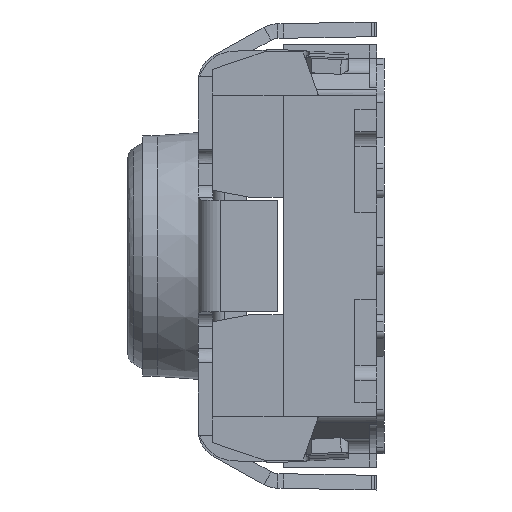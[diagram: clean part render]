
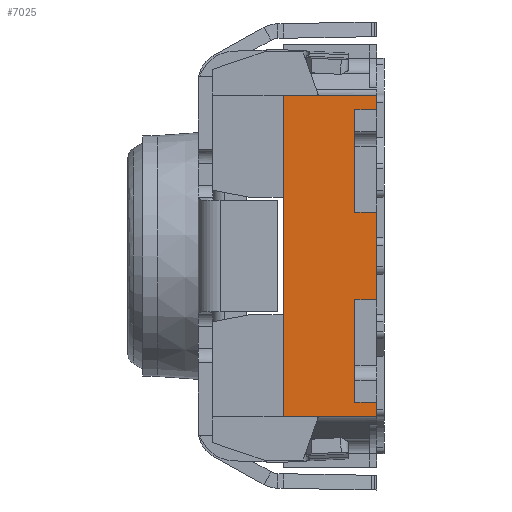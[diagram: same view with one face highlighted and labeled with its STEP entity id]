
A CAD part, left-side view. The second image highlights one B-rep face of the part: STEP entity #7025.
In plain terms, the highlighted planar face has unit normal (-1, 0, 0).
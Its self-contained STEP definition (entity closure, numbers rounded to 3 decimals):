
#104 = CARTESIAN_POINT ( 'NONE',  ( -1.75, 0.64, 0.4 ) ) ;
#188 = DIRECTION ( 'NONE',  ( 0., 0., -1. ) ) ;
#320 = CARTESIAN_POINT ( 'NONE',  ( -1.75, 0., -1.445 ) ) ;
#342 = LINE ( 'NONE', #320, #5963 ) ;
#400 = EDGE_CURVE ( 'NONE', #13100, #13331, #9285, .T. ) ;
#727 = LINE ( 'NONE', #5709, #11260 ) ;
#910 = LINE ( 'NONE', #4287, #6488 ) ;
#1172 = VERTEX_POINT ( 'NONE', #7835 ) ;
#1658 = CARTESIAN_POINT ( 'NONE',  ( -1.75, 0.64, -0.3 ) ) ;
#1951 = VECTOR ( 'NONE', #3229, 1000. ) ;
#2148 = LINE ( 'NONE', #26224, #7086 ) ;
#2409 = PLANE ( 'NONE',  #2807 ) ;
#2414 = LINE ( 'NONE', #14911, #8003 ) ;
#2771 = VERTEX_POINT ( 'NONE', #12848 ) ;
#2807 = AXIS2_PLACEMENT_3D ( 'NONE', #10863, #25531, #12964 ) ;
#2899 = VERTEX_POINT ( 'NONE', #8416 ) ;
#3229 = DIRECTION ( 'NONE',  ( 0., -1., 0. ) ) ;
#3239 = VECTOR ( 'NONE', #9915, 1000. ) ;
#3407 = CARTESIAN_POINT ( 'NONE',  ( -1.75, 0.64, -0.4 ) ) ;
#3585 = LINE ( 'NONE', #26619, #20351 ) ;
#3626 = VERTEX_POINT ( 'NONE', #7734 ) ;
#4287 = CARTESIAN_POINT ( 'NONE',  ( -1.75, 0.15, 0. ) ) ;
#5030 = EDGE_CURVE ( 'NONE', #26349, #24691, #727, .T. ) ;
#5426 = VERTEX_POINT ( 'NONE', #8440 ) ;
#5627 = EDGE_CURVE ( 'NONE', #26600, #3626, #20747, .T. ) ;
#5709 = CARTESIAN_POINT ( 'NONE',  ( -1.75, 0.64, -1.1 ) ) ;
#5963 = VECTOR ( 'NONE', #6766, 1000. ) ;
#6221 = EDGE_CURVE ( 'NONE', #13100, #20587, #3585, .T. ) ;
#6488 = VECTOR ( 'NONE', #16884, 1000. ) ;
#6766 = DIRECTION ( 'NONE',  ( 0., 0., -1. ) ) ;
#7025 = ADVANCED_FACE ( 'NONE', ( #9060 ), #2409, .F. ) ;
#7046 = CARTESIAN_POINT ( 'NONE',  ( -1.75, 0.64, 0. ) ) ;
#7076 = LINE ( 'NONE', #7046, #23179 ) ;
#7086 = VECTOR ( 'NONE', #15803, 1000. ) ;
#7615 = DIRECTION ( 'NONE',  ( 0., 0., 1. ) ) ;
#7702 = EDGE_CURVE ( 'NONE', #2899, #10721, #2414, .T. ) ;
#7734 = CARTESIAN_POINT ( 'NONE',  ( -1.75, 0., 1. ) ) ;
#7835 = CARTESIAN_POINT ( 'NONE',  ( -1.75, 0., -1. ) ) ;
#8003 = VECTOR ( 'NONE', #188, 1000. ) ;
#8086 = CARTESIAN_POINT ( 'NONE',  ( -1.75, 0.64, 1. ) ) ;
#8168 = LINE ( 'NONE', #17949, #1951 ) ;
#8351 = DIRECTION ( 'NONE',  ( 0., -1., 0. ) ) ;
#8377 = EDGE_LOOP ( 'NONE', ( #13766, #8515, #14626, #24955, #12652, #10331, #21939, #17019, #10124, #27283, #8452, #21562, #9742, #16435 ) ) ;
#8416 = CARTESIAN_POINT ( 'NONE',  ( -1.75, 0.15, 1. ) ) ;
#8440 = CARTESIAN_POINT ( 'NONE',  ( -1.75, 0., -0.3 ) ) ;
#8452 = ORIENTED_EDGE ( 'NONE', *, *, #5030, .F. ) ;
#8515 = ORIENTED_EDGE ( 'NONE', *, *, #26721, .F. ) ;
#8968 = EDGE_CURVE ( 'NONE', #5426, #2771, #24940, .T. ) ;
#9060 = FACE_OUTER_BOUND ( 'NONE', #8377, .T. ) ;
#9123 = DIRECTION ( 'NONE',  ( 0., 0., 1. ) ) ;
#9124 = EDGE_CURVE ( 'NONE', #2771, #18233, #910, .T. ) ;
#9285 = LINE ( 'NONE', #10786, #14887 ) ;
#9325 = VERTEX_POINT ( 'NONE', #13289 ) ;
#9742 = ORIENTED_EDGE ( 'NONE', *, *, #17764, .F. ) ;
#9915 = DIRECTION ( 'NONE',  ( 0., 1., 0. ) ) ;
#10124 = ORIENTED_EDGE ( 'NONE', *, *, #6221, .T. ) ;
#10331 = ORIENTED_EDGE ( 'NONE', *, *, #5627, .F. ) ;
#10661 = CARTESIAN_POINT ( 'NONE',  ( -1.75, 0., -1.445 ) ) ;
#10721 = VERTEX_POINT ( 'NONE', #17523 ) ;
#10786 = CARTESIAN_POINT ( 'NONE',  ( -1.75, 0.64, 0. ) ) ;
#10863 = CARTESIAN_POINT ( 'NONE',  ( -1.75, 0.64, 0. ) ) ;
#10932 = VECTOR ( 'NONE', #12770, 1000. ) ;
#11260 = VECTOR ( 'NONE', #20400, 1000. ) ;
#12582 = CARTESIAN_POINT ( 'NONE',  ( -1.75, 0., 1.1 ) ) ;
#12652 = ORIENTED_EDGE ( 'NONE', *, *, #25134, .F. ) ;
#12770 = DIRECTION ( 'NONE',  ( 0., 0., -1. ) ) ;
#12800 = EDGE_CURVE ( 'NONE', #13331, #26600, #2148, .T. ) ;
#12848 = CARTESIAN_POINT ( 'NONE',  ( -1.75, 0.15, -0.3 ) ) ;
#12964 = DIRECTION ( 'NONE',  ( 0., 0., -1. ) ) ;
#13071 = VECTOR ( 'NONE', #20681, 1000. ) ;
#13100 = VERTEX_POINT ( 'NONE', #104 ) ;
#13289 = CARTESIAN_POINT ( 'NONE',  ( -1.75, 0., 0.3 ) ) ;
#13331 = VERTEX_POINT ( 'NONE', #15586 ) ;
#13532 = CARTESIAN_POINT ( 'NONE',  ( -1.75, 0., -1.1 ) ) ;
#13721 = LINE ( 'NONE', #8086, #13071 ) ;
#13766 = ORIENTED_EDGE ( 'NONE', *, *, #8968, .F. ) ;
#14233 = LINE ( 'NONE', #23094, #17536 ) ;
#14626 = ORIENTED_EDGE ( 'NONE', *, *, #24961, .F. ) ;
#14887 = VECTOR ( 'NONE', #7615, 1000. ) ;
#14905 = CARTESIAN_POINT ( 'NONE',  ( -1.75, 0.64, -1.1 ) ) ;
#14911 = CARTESIAN_POINT ( 'NONE',  ( -1.75, 0.15, 0. ) ) ;
#15586 = CARTESIAN_POINT ( 'NONE',  ( -1.75, 0.64, 1.1 ) ) ;
#15803 = DIRECTION ( 'NONE',  ( 0., -1., 0. ) ) ;
#16435 = ORIENTED_EDGE ( 'NONE', *, *, #9124, .F. ) ;
#16884 = DIRECTION ( 'NONE',  ( 0., 0., -1. ) ) ;
#17019 = ORIENTED_EDGE ( 'NONE', *, *, #400, .F. ) ;
#17523 = CARTESIAN_POINT ( 'NONE',  ( -1.75, 0.15, 0.3 ) ) ;
#17536 = VECTOR ( 'NONE', #8351, 1000. ) ;
#17764 = EDGE_CURVE ( 'NONE', #18233, #1172, #14233, .T. ) ;
#17823 = EDGE_CURVE ( 'NONE', #1172, #26349, #22133, .T. ) ;
#17949 = CARTESIAN_POINT ( 'NONE',  ( -1.75, 0.64, 0.3 ) ) ;
#18233 = VERTEX_POINT ( 'NONE', #20762 ) ;
#20075 = VECTOR ( 'NONE', #24144, 1000. ) ;
#20351 = VECTOR ( 'NONE', #20385, 1000. ) ;
#20385 = DIRECTION ( 'NONE',  ( 0., 0., -1. ) ) ;
#20400 = DIRECTION ( 'NONE',  ( 0., 1., 0. ) ) ;
#20587 = VERTEX_POINT ( 'NONE', #3407 ) ;
#20681 = DIRECTION ( 'NONE',  ( 0., 1., 0. ) ) ;
#20747 = LINE ( 'NONE', #22042, #20075 ) ;
#20762 = CARTESIAN_POINT ( 'NONE',  ( -1.75, 0.15, -1. ) ) ;
#21562 = ORIENTED_EDGE ( 'NONE', *, *, #17823, .F. ) ;
#21939 = ORIENTED_EDGE ( 'NONE', *, *, #12800, .F. ) ;
#22042 = CARTESIAN_POINT ( 'NONE',  ( -1.75, 0., -1.445 ) ) ;
#22133 = LINE ( 'NONE', #10661, #10932 ) ;
#23094 = CARTESIAN_POINT ( 'NONE',  ( -1.75, 0.64, -1. ) ) ;
#23179 = VECTOR ( 'NONE', #9123, 1000. ) ;
#24144 = DIRECTION ( 'NONE',  ( 0., 0., -1. ) ) ;
#24691 = VERTEX_POINT ( 'NONE', #14905 ) ;
#24940 = LINE ( 'NONE', #1658, #3239 ) ;
#24955 = ORIENTED_EDGE ( 'NONE', *, *, #7702, .F. ) ;
#24961 = EDGE_CURVE ( 'NONE', #10721, #9325, #8168, .T. ) ;
#25134 = EDGE_CURVE ( 'NONE', #3626, #2899, #13721, .T. ) ;
#25531 = DIRECTION ( 'NONE',  ( 1., 0., 0. ) ) ;
#25845 = EDGE_CURVE ( 'NONE', #24691, #20587, #7076, .T. ) ;
#26224 = CARTESIAN_POINT ( 'NONE',  ( -1.75, 0.64, 1.1 ) ) ;
#26349 = VERTEX_POINT ( 'NONE', #13532 ) ;
#26600 = VERTEX_POINT ( 'NONE', #12582 ) ;
#26619 = CARTESIAN_POINT ( 'NONE',  ( -1.75, 0.64, -1.445 ) ) ;
#26721 = EDGE_CURVE ( 'NONE', #9325, #5426, #342, .T. ) ;
#27283 = ORIENTED_EDGE ( 'NONE', *, *, #25845, .F. ) ;
